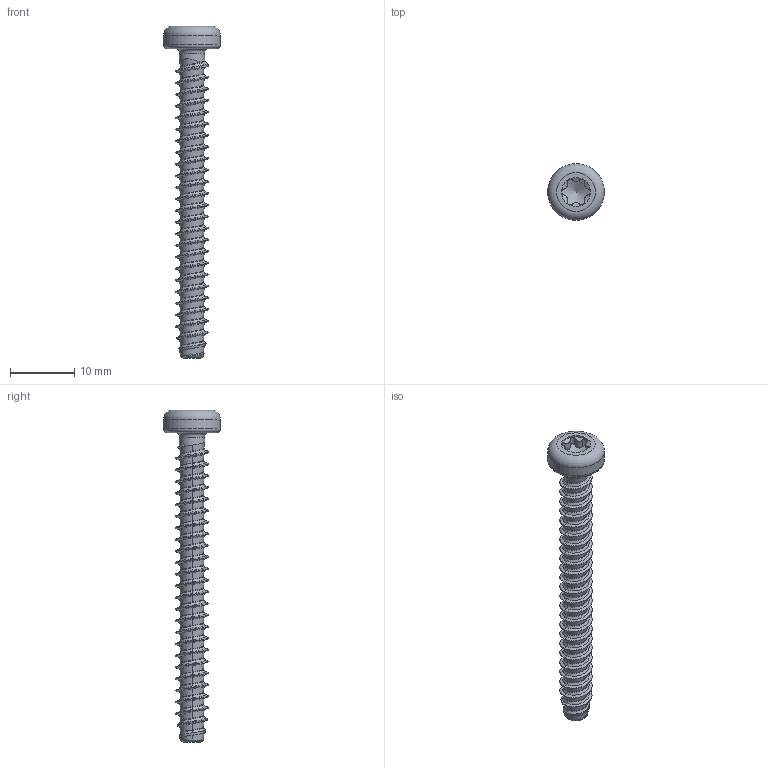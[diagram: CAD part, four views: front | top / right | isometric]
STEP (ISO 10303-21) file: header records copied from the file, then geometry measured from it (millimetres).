
FILE_DESCRIPTION(/* description */ (''),/* implementation_level */ '2;1');
FILE_NAME(/* name */ 'KN6039-STSplus-50x48-T25.prt.step',/* time_stamp */ '2017-10-11T16:07:31+02:00',/* author */ (''),/* organization */ (''),/* preprocessor_version */ 'ST-DEVELOPER v16',/* originating_system */ 'SIEMENS PLM Software NX 10.0',/* authorisation */ '');
FILE_SCHEMA (('AUTOMOTIVE_DESIGN { 1 0 10303 214 3 1 1 1 }'));
Length unit declared in the file: millimetre
Products named in the file (1): KN6039-STSplus-50x48-T25
Bounding box: 8.8 x 8.8 x 51.5 mm (x, y, z)
Volume: 746.9 mm3; surface area: 1104 mm2
Topology: 1 solids, 1 shells, 164 faces, 372 edges, 211 vertices
Faces by surface type: bspline 132, cylinder 16, cone 9, torus 4, plane 3
Full cylindrical faces by diameter (mm): 3.92 x1, 4.5 x1, 8.8 x1
Entity records: 11881 total; most frequent: CARTESIAN_POINT 9098, ORIENTED_EDGE 720, EDGE_CURVE 360, DIRECTION 241, VERTEX_POINT 208, B_SPLINE_CURVE_WITH_KNOTS 203, EDGE_LOOP 173, ADVANCED_FACE 164
